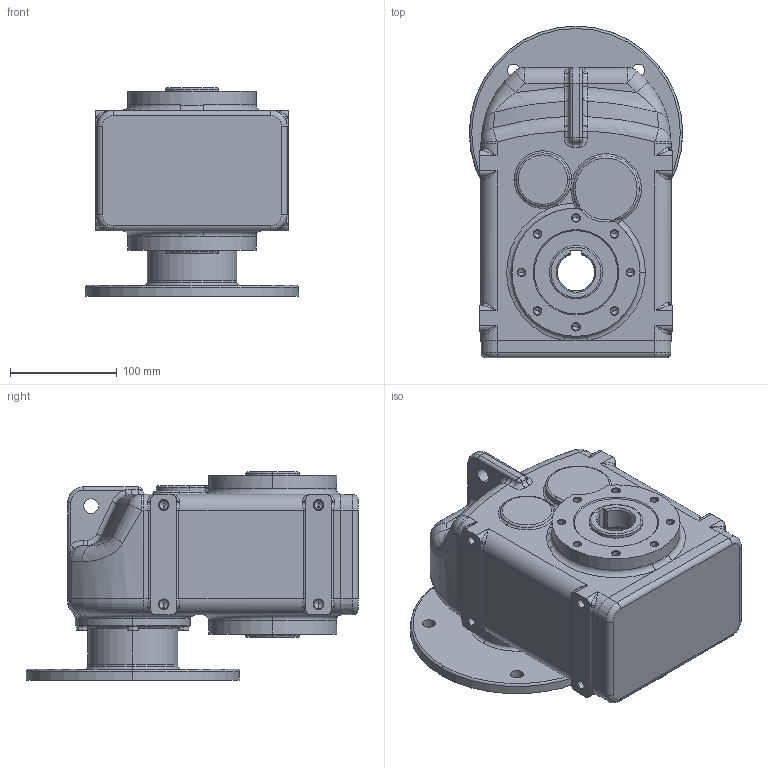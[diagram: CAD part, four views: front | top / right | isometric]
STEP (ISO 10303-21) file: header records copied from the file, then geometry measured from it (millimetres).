
FILE_DESCRIPTION (( 'STEP AP214' ), '1' );
FILE_NAME ('tnc22-f165-ap90.STEP', '2009-09-24T06:58:45', ( '' ), ( '' ), 'SwSTEP 2.0', 'SolidWorks 2003240', '' );
FILE_SCHEMA (( 'AUTOMOTIVE_DESIGN' ));
Length unit declared in the file: millimetre
Products named in the file (4): Pøíruba MRT80 kulatá _130-165-188; Skøíò TNC2_Skøíò TNC22 AP90; D6912_Šroub DIN 6912 - M6x20; tnc22-f165-ap90
Assembly tree (8 placements, depth 2):
  tnc22-f165-ap90
    D6912_Šroub DIN 6912 - M6x20  x6
    Pøíruba MRT80 kulatá _130-165-188
    Skøíò TNC2_Skøíò TNC22 AP90
Bounding box: 200 x 311 x 195 mm (x, y, z)
Volume: 5750483.9 mm3; surface area: 325732.9 mm2
Topology: 8 solids, 8 shells, 858 faces, 1910 edges, 1039 vertices
Faces by surface type: cylinder 246, cone 241, plane 175, torus 128, bspline 62, sphere 6
Entity records: 82583 total; most frequent: CARTESIAN_POINT 66645, DIRECTION 3449, ORIENTED_EDGE 2992, EDGE_CURVE 1496, AXIS2_PLACEMENT_3D 1451, VERTEX_POINT 884, CIRCLE 829, EDGE_LOOP 754
